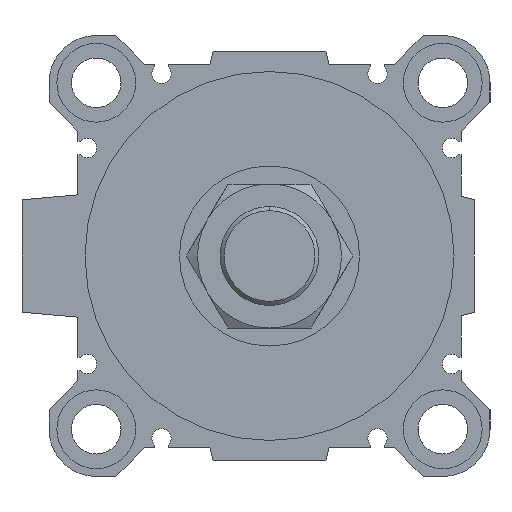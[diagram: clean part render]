
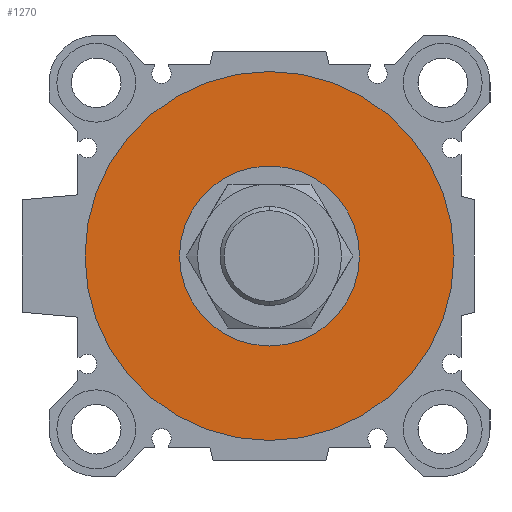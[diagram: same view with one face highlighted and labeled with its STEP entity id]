
A CAD part, left-side view. The second image highlights one B-rep face of the part: STEP entity #1270.
In plain terms, the highlighted planar face has unit normal (-1, 0, 0).
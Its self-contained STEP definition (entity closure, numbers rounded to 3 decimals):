
#84 = CARTESIAN_POINT ( 'NONE',  ( 5., 0., 0. ) ) ;
#147 = CARTESIAN_POINT ( 'NONE',  ( 5., 0., 41. ) ) ;
#254 = EDGE_CURVE ( 'NONE', #1691, #4739, #2215, .T. ) ;
#454 = CARTESIAN_POINT ( 'NONE',  ( 5., 0., 20. ) ) ;
#914 = CARTESIAN_POINT ( 'NONE',  ( 5., 0., -20. ) ) ;
#1015 = VERTEX_POINT ( 'NONE', #1880 ) ;
#1067 = ORIENTED_EDGE ( 'NONE', *, *, #254, .T. ) ;
#1069 = CARTESIAN_POINT ( 'NONE',  ( 5., 0., 0. ) ) ;
#1104 = CARTESIAN_POINT ( 'NONE',  ( 5., 0., 0. ) ) ;
#1220 = EDGE_CURVE ( 'NONE', #1015, #7064, #3790, .T. ) ;
#1270 = ADVANCED_FACE ( 'NONE', ( #4500, #2180 ), #6931, .F. ) ;
#1369 = AXIS2_PLACEMENT_3D ( 'NONE', #84, #4800, #2523 ) ;
#1451 = ORIENTED_EDGE ( 'NONE', *, *, #5121, .T. ) ;
#1691 = VERTEX_POINT ( 'NONE', #914 ) ;
#1693 = CARTESIAN_POINT ( 'NONE',  ( 5., 0., 0. ) ) ;
#1880 = CARTESIAN_POINT ( 'NONE',  ( 5., 0., -41. ) ) ;
#2107 = DIRECTION ( 'NONE',  ( 0., 1., 0. ) ) ;
#2180 = FACE_BOUND ( 'NONE', #3577, .T. ) ;
#2215 = CIRCLE ( 'NONE', #3822, 20. ) ;
#2523 = DIRECTION ( 'NONE',  ( 0., 0., -1. ) ) ;
#2547 = AXIS2_PLACEMENT_3D ( 'NONE', #1069, #5140, #5675 ) ;
#2677 = EDGE_LOOP ( 'NONE', ( #3049, #3749 ) ) ;
#3049 = ORIENTED_EDGE ( 'NONE', *, *, #5175, .F. ) ;
#3443 = DIRECTION ( 'NONE',  ( 0., 0., -1. ) ) ;
#3577 = EDGE_LOOP ( 'NONE', ( #1451, #1067 ) ) ;
#3749 = ORIENTED_EDGE ( 'NONE', *, *, #1220, .F. ) ;
#3790 = CIRCLE ( 'NONE', #2547, 41. ) ;
#3822 = AXIS2_PLACEMENT_3D ( 'NONE', #1104, #7577, #3443 ) ;
#4500 = FACE_OUTER_BOUND ( 'NONE', #2677, .T. ) ;
#4739 = VERTEX_POINT ( 'NONE', #454 ) ;
#4800 = DIRECTION ( 'NONE',  ( 1., 0., 0. ) ) ;
#5121 = EDGE_CURVE ( 'NONE', #4739, #1691, #6382, .T. ) ;
#5140 = DIRECTION ( 'NONE',  ( 1., 0., 0. ) ) ;
#5175 = EDGE_CURVE ( 'NONE', #7064, #1015, #5657, .T. ) ;
#5451 = CARTESIAN_POINT ( 'NONE',  ( 5., 0., 0. ) ) ;
#5500 = AXIS2_PLACEMENT_3D ( 'NONE', #1693, #6819, #2107 ) ;
#5657 = CIRCLE ( 'NONE', #6388, 41. ) ;
#5675 = DIRECTION ( 'NONE',  ( 0., 0., -1. ) ) ;
#6382 = CIRCLE ( 'NONE', #1369, 20. ) ;
#6388 = AXIS2_PLACEMENT_3D ( 'NONE', #5451, #7208, #6554 ) ;
#6554 = DIRECTION ( 'NONE',  ( 0., 0., -1. ) ) ;
#6819 = DIRECTION ( 'NONE',  ( 1., 0., 0. ) ) ;
#6931 = PLANE ( 'NONE',  #5500 ) ;
#7064 = VERTEX_POINT ( 'NONE', #147 ) ;
#7208 = DIRECTION ( 'NONE',  ( 1., 0., 0. ) ) ;
#7577 = DIRECTION ( 'NONE',  ( 1., 0., 0. ) ) ;
